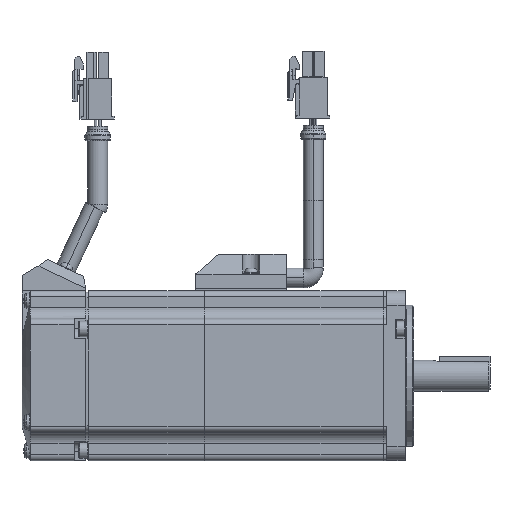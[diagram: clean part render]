
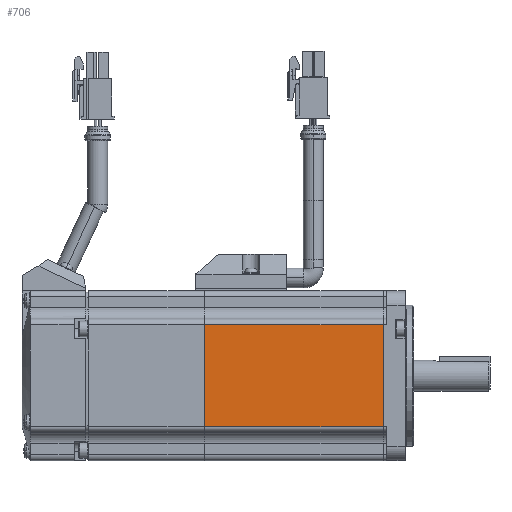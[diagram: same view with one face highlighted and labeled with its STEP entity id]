
A CAD part, top view. The second image highlights one B-rep face of the part: STEP entity #706.
In plain terms, the highlighted planar face has unit normal (0, 0, 1).
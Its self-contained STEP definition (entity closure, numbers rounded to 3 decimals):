
#706 = ADVANCED_FACE( '', ( #2063 ), #2064, .T. );
#2063 = FACE_OUTER_BOUND( '', #4228, .T. );
#2064 = PLANE( '', #4229 );
#4228 = EDGE_LOOP( '', ( #8150, #8151, #8152, #8153 ) );
#4229 = AXIS2_PLACEMENT_3D( '', #8154, #8155, #8156 );
#8150 = ORIENTED_EDGE( '', *, *, #14982, .T. );
#8151 = ORIENTED_EDGE( '', *, *, #14993, .F. );
#8152 = ORIENTED_EDGE( '', *, *, #14994, .T. );
#8153 = ORIENTED_EDGE( '', *, *, #14995, .T. );
#8154 = CARTESIAN_POINT( '', ( -6.5, -25., 30. ) );
#8155 = DIRECTION( '', ( 0., 0., 1. ) );
#8156 = DIRECTION( '', ( 0., -1., 0. ) );
#14982 = EDGE_CURVE( '', #18206, #18204, #18207, .T. );
#14993 = EDGE_CURVE( '', #18227, #18204, #18228, .T. );
#14994 = EDGE_CURVE( '', #18227, #18229, #18230, .T. );
#14995 = EDGE_CURVE( '', #18229, #18206, #18231, .T. );
#18204 = VERTEX_POINT( '', #23150 );
#18206 = VERTEX_POINT( '', #23152 );
#18207 = LINE( '', #23153, #23154 );
#18227 = VERTEX_POINT( '', #23179 );
#18228 = LINE( '', #23180, #23181 );
#18229 = VERTEX_POINT( '', #23182 );
#18230 = LINE( '', #23183, #23184 );
#18231 = LINE( '', #23185, #23186 );
#23150 = CARTESIAN_POINT( '', ( -70.95, -18., 30. ) );
#23152 = CARTESIAN_POINT( '', ( -70.95, 18., 30. ) );
#23153 = CARTESIAN_POINT( '', ( -70.95, -12.5, 30. ) );
#23154 = VECTOR( '', #29032, 1. );
#23179 = CARTESIAN_POINT( '', ( -7.75, -18., 30. ) );
#23180 = CARTESIAN_POINT( '', ( -6.5, -18., 30. ) );
#23181 = VECTOR( '', #29053, 1. );
#23182 = CARTESIAN_POINT( '', ( -7.75, 18., 30. ) );
#23183 = CARTESIAN_POINT( '', ( -7.75, -12.5, 30. ) );
#23184 = VECTOR( '', #29054, 1. );
#23185 = CARTESIAN_POINT( '', ( -6.5, 18., 30. ) );
#23186 = VECTOR( '', #29055, 1. );
#29032 = DIRECTION( '', ( 0., -1., 0. ) );
#29053 = DIRECTION( '', ( -1., 0., 0. ) );
#29054 = DIRECTION( '', ( 0., 1., 0. ) );
#29055 = DIRECTION( '', ( -1., 0., 0. ) );
